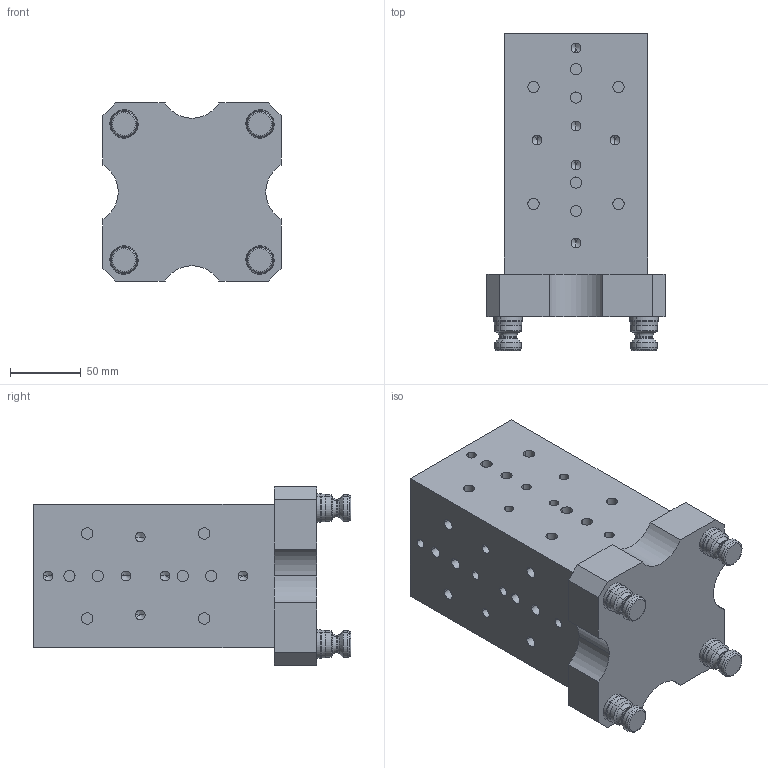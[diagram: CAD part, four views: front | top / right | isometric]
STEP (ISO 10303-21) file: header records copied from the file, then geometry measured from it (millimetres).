
FILE_DESCRIPTION (( 'STEP AP214' ), '1' );
FILE_NAME ('D_R96-V75XT4.STEP', '2020-03-13T21:58:25', ( '' ), ( '' ), 'SwSTEP 2.0', 'SolidWorks 2018', '' );
FILE_SCHEMA (( 'AUTOMOTIVE_DESIGN' ));
Length unit declared in the file: millimetre
Products named in the file (3): D_PS20F_HARD TURN; D_R96-V75XT4; D_R96-V75XT4-1
Assembly tree (5 placements, depth 2):
  D_R96-V75XT4
    D_R96-V75XT4-1
    D_PS20F_HARD TURN  x4
Bounding box: 125.73 x 224 x 125.73 mm (x, y, z)
Volume: 2174445.3 mm3; surface area: 143186.5 mm2
Topology: 5 solids, 5 shells, 410 faces, 885 edges, 499 vertices
Faces by surface type: cylinder 179, cone 98, plane 69, torus 64
Entity records: 7990 total; most frequent: DIRECTION 1535, CARTESIAN_POINT 1279, ORIENTED_EDGE 1198, AXIS2_PLACEMENT_3D 635, EDGE_CURVE 599, VERTEX_POINT 379, EDGE_LOOP 362, CIRCLE 334
